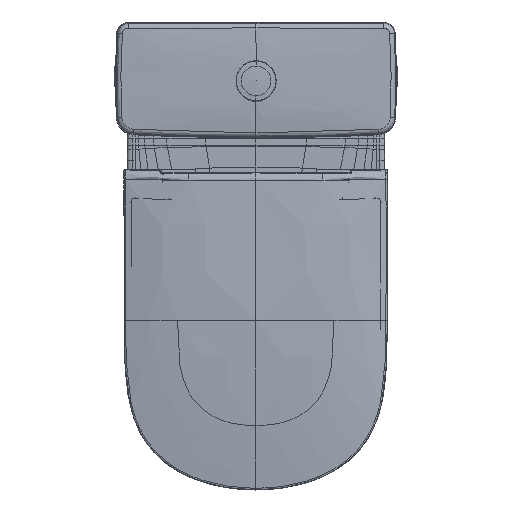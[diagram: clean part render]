
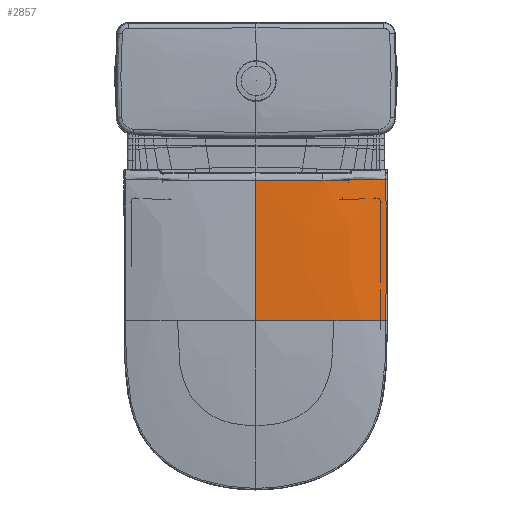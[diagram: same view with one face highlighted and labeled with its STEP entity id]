
A CAD part, top view. The second image highlights one B-rep face of the part: STEP entity #2857.
In plain terms, the highlighted free-form (B-spline) face has degree [3, 3] with [4, 4] control points.
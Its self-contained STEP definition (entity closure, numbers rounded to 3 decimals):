
#586=FACE_OUTER_BOUND('',#5080,.T.);
#2857=ADVANCED_FACE('',(#586),#4023,.T.);
#4023=B_SPLINE_SURFACE_WITH_KNOTS('',3,3,((#34935,#34936,#34937,#34938),
(#34939,#34940,#34941,#34942),(#34943,#34944,#34945,#34946),(#34947,#34948,
#34949,#34950)),.UNSPECIFIED.,.F.,.F.,.F.,(4,4),(4,4),(0.,1.),(0.,1.),
 .UNSPECIFIED.);
#5080=EDGE_LOOP('',(#7173,#7174,#7175,#7176,#7177,#7178,#7179,#7180));
#7173=ORIENTED_EDGE('',*,*,#14983,.F.);
#7174=ORIENTED_EDGE('',*,*,#15152,.F.);
#7175=ORIENTED_EDGE('',*,*,#15153,.T.);
#7176=ORIENTED_EDGE('',*,*,#15115,.F.);
#7177=ORIENTED_EDGE('',*,*,#15087,.F.);
#7178=ORIENTED_EDGE('',*,*,#15084,.F.);
#7179=ORIENTED_EDGE('',*,*,#15096,.F.);
#7180=ORIENTED_EDGE('',*,*,#14988,.F.);
#12844=VERTEX_POINT('',#30653);
#12846=VERTEX_POINT('',#30674);
#12851=VERTEX_POINT('',#30761);
#12920=VERTEX_POINT('',#33126);
#12922=VERTEX_POINT('',#33137);
#12923=VERTEX_POINT('',#33165);
#12940=VERTEX_POINT('',#33998);
#12956=VERTEX_POINT('',#34930);
#14983=EDGE_CURVE('',#12846,#12844,#18068,.T.);
#14988=EDGE_CURVE('',#12844,#12851,#18073,.T.);
#15084=EDGE_CURVE('',#12922,#12920,#18168,.T.);
#15087=EDGE_CURVE('',#12920,#12923,#18171,.T.);
#15096=EDGE_CURVE('',#12851,#12922,#18178,.T.);
#15115=EDGE_CURVE('',#12923,#12940,#18197,.T.);
#15152=EDGE_CURVE('',#12956,#12846,#18233,.T.);
#15153=EDGE_CURVE('',#12956,#12940,#18234,.T.);
#18068=B_SPLINE_CURVE_WITH_KNOTS('',5,(#30675,#30676,#30677,#30678,#30679,
#30680),.UNSPECIFIED.,.F.,.F.,(6,6),(0.,1.),.UNSPECIFIED.);
#18073=B_SPLINE_CURVE_WITH_KNOTS('',3,(#30755,#30756,#30757,#30758,#30759,
#30760),.UNSPECIFIED.,.F.,.F.,(4,2,4),(0.,0.5,1.),.UNSPECIFIED.);
#18168=B_SPLINE_CURVE_WITH_KNOTS('',2,(#33138,#33139,#33140),
 .UNSPECIFIED.,.F.,.F.,(3,3),(0.,1.),.UNSPECIFIED.);
#18171=B_SPLINE_CURVE_WITH_KNOTS('',2,(#33169,#33170,#33171),
 .UNSPECIFIED.,.F.,.F.,(3,3),(0.,1.),.UNSPECIFIED.);
#18178=B_SPLINE_CURVE_WITH_KNOTS('',2,(#33373,#33374,#33375),
 .UNSPECIFIED.,.F.,.F.,(3,3),(0.,1.),.UNSPECIFIED.);
#18197=B_SPLINE_CURVE_WITH_KNOTS('',3,(#33994,#33995,#33996,#33997),
 .UNSPECIFIED.,.F.,.F.,(4,4),(0.,1.),.UNSPECIFIED.);
#18233=B_SPLINE_CURVE_WITH_KNOTS('',3,(#34926,#34927,#34928,#34929),
 .UNSPECIFIED.,.F.,.F.,(4,4),(0.,1.),.UNSPECIFIED.);
#18234=B_SPLINE_CURVE_WITH_KNOTS('',3,(#34931,#34932,#34933,#34934),
 .UNSPECIFIED.,.F.,.F.,(4,4),(0.,1.),.UNSPECIFIED.);
#30653=CARTESIAN_POINT('',(93.268,-109.029,460.688));
#30674=CARTESIAN_POINT('',(-0.395,-109.324,462.406));
#30675=CARTESIAN_POINT('',(-0.395,-109.324,462.406));
#30676=CARTESIAN_POINT('',(18.343,-109.324,462.406));
#30677=CARTESIAN_POINT('',(37.081,-109.307,462.32));
#30678=CARTESIAN_POINT('',(55.817,-109.262,462.075));
#30679=CARTESIAN_POINT('',(74.553,-109.174,461.589));
#30680=CARTESIAN_POINT('',(93.268,-109.029,460.688));
#30755=CARTESIAN_POINT('',(93.268,-109.029,460.688));
#30756=CARTESIAN_POINT('',(107.985,-108.915,459.979));
#30757=CARTESIAN_POINT('',(122.692,-108.757,458.976));
#30758=CARTESIAN_POINT('',(151.989,-108.331,455.839));
#30759=CARTESIAN_POINT('',(166.602,-108.066,453.736));
#30760=CARTESIAN_POINT('',(180.958,-107.766,450.432));
#30761=CARTESIAN_POINT('',(180.958,-107.766,450.432));
#33126=CARTESIAN_POINT('',(181.114,-238.65,450.535));
#33137=CARTESIAN_POINT('',(181.109,-173.085,450.515));
#33138=CARTESIAN_POINT('',(181.109,-173.085,450.515));
#33139=CARTESIAN_POINT('',(181.155,-205.868,450.538));
#33140=CARTESIAN_POINT('',(181.114,-238.65,450.535));
#33165=CARTESIAN_POINT('',(180.917,-304.214,450.507));
#33169=CARTESIAN_POINT('',(181.114,-238.65,450.535));
#33170=CARTESIAN_POINT('',(181.073,-271.432,450.532));
#33171=CARTESIAN_POINT('',(180.917,-304.214,450.507));
#33373=CARTESIAN_POINT('',(180.958,-107.766,450.433));
#33374=CARTESIAN_POINT('',(181.063,-140.426,450.492));
#33375=CARTESIAN_POINT('',(181.109,-173.085,450.515));
#33994=CARTESIAN_POINT('',(180.917,-304.214,450.507));
#33995=CARTESIAN_POINT('',(160.362,-304.214,456.207));
#33996=CARTESIAN_POINT('',(135.824,-304.231,459.781));
#33997=CARTESIAN_POINT('',(108.481,-304.249,461.986));
#33998=CARTESIAN_POINT('',(108.481,-304.249,461.986));
#34926=CARTESIAN_POINT('',(-0.395,-304.297,465.308));
#34927=CARTESIAN_POINT('',(-0.395,-239.297,466.588));
#34928=CARTESIAN_POINT('',(-0.395,-174.239,466.044));
#34929=CARTESIAN_POINT('',(-0.395,-109.324,462.406));
#34930=CARTESIAN_POINT('',(-0.395,-304.297,465.308));
#34931=CARTESIAN_POINT('',(-0.395,-304.297,465.308));
#34932=CARTESIAN_POINT('',(38.59,-304.297,465.308));
#34933=CARTESIAN_POINT('',(75.568,-304.272,464.64));
#34934=CARTESIAN_POINT('',(108.481,-304.249,461.986));
#34935=CARTESIAN_POINT('',(-0.395,-106.589,462.251));
#34936=CARTESIAN_POINT('',(71.594,-106.589,462.251));
#34937=CARTESIAN_POINT('',(136.634,-106.589,460.747));
#34938=CARTESIAN_POINT('',(181.845,-106.588,450.225));
#34939=CARTESIAN_POINT('',(-0.395,-172.412,466.029));
#34940=CARTESIAN_POINT('',(71.535,-172.412,466.029));
#34941=CARTESIAN_POINT('',(136.638,-172.382,464.27));
#34942=CARTESIAN_POINT('',(181.969,-172.458,450.3));
#34943=CARTESIAN_POINT('',(-0.395,-238.384,466.606));
#34944=CARTESIAN_POINT('',(71.476,-238.384,466.606));
#34945=CARTESIAN_POINT('',(136.613,-238.326,464.592));
#34946=CARTESIAN_POINT('',(182.033,-238.336,450.307));
#34947=CARTESIAN_POINT('',(-0.395,-304.297,465.308));
#34948=CARTESIAN_POINT('',(71.417,-304.297,465.308));
#34949=CARTESIAN_POINT('',(136.415,-304.212,463.04));
#34950=CARTESIAN_POINT('',(181.751,-304.214,450.274));
